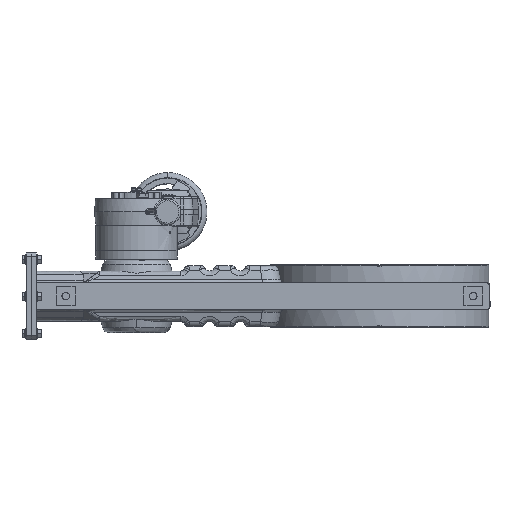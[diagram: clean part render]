
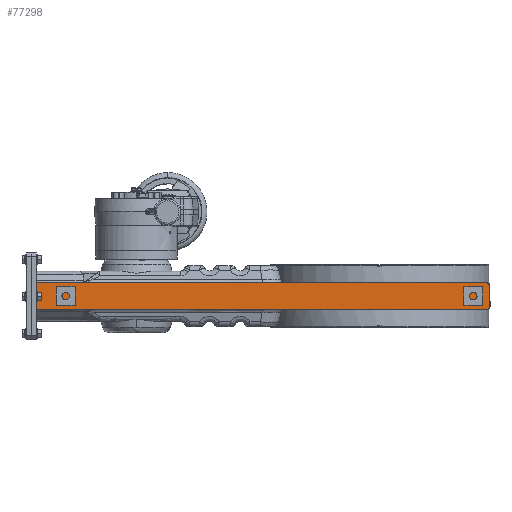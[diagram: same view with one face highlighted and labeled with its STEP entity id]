
A CAD part, left-side view. The second image highlights one B-rep face of the part: STEP entity #77298.
In plain terms, the highlighted free-form (B-spline) face has degree [1, 1] with [2, 2] control points.
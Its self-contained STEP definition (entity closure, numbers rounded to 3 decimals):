
#77161=CARTESIAN_POINT('V23',(0.,21.,
   718.));
#77162=VERTEX_POINT('V23',#77161);
#77169=CARTESIAN_POINT('V22',(0.,16.,723.0)
   );
#77170=VERTEX_POINT('V22',#77169);
#77176=CARTESIAN_POINT('E29',(0.,16.,723.0)
   );
#77177=CARTESIAN_POINT('E29',(0.,21.,
   723.));
#77178=CARTESIAN_POINT('E29',(0.,21.,
   718.));
#77186=(BOUNDED_CURVE()B_SPLINE_CURVE(2,(#77176,#77177,#77178),
   .CIRCULAR_ARC.,.F.,.U.)B_SPLINE_CURVE_WITH_KNOTS((3,3),(2.0,
   13.107),.UNSPECIFIED.)CURVE()
   GEOMETRIC_REPRESENTATION_ITEM()RATIONAL_B_SPLINE_CURVE((1.0,
   0.707,1.0))REPRESENTATION_ITEM('E29'));
#77187=EDGE_CURVE('E29',#77170,#77162,#77186,.T.);
#77199=CARTESIAN_POINT('V21',(0.,-16.0,
   723.));
#77200=VERTEX_POINT('V21',#77199);
#77206=CARTESIAN_POINT('E28',(0.,-16.0,
   723.));
#77207=CARTESIAN_POINT('E28',(0.,16.0,723.)
   );
#77208=B_SPLINE_CURVE_WITH_KNOTS('E28',1,(#77206,#77207),
   .POLYLINE_FORM.,.F.,.U.,(2,2),(2.0,47.255),
   .UNSPECIFIED.);
#77209=EDGE_CURVE('E28',#77200,#77170,#77208,.T.);
#77230=CARTESIAN_POINT('V20',(0.,-21.,
   718.));
#77231=VERTEX_POINT('V20',#77230);
#77237=CARTESIAN_POINT('E27',(0.,-21.,
   718.));
#77238=CARTESIAN_POINT('E27',(0.,-21.,
   723.));
#77239=CARTESIAN_POINT('E27',(0.,-16.0,
   723.));
#77247=(BOUNDED_CURVE()B_SPLINE_CURVE(2,(#77237,#77238,#77239),
   .CIRCULAR_ARC.,.F.,.U.)B_SPLINE_CURVE_WITH_KNOTS((3,3),(2.0,
   13.107),.UNSPECIFIED.)CURVE()
   GEOMETRIC_REPRESENTATION_ITEM()RATIONAL_B_SPLINE_CURVE((1.0,
   0.707,1.0))REPRESENTATION_ITEM('E27'));
#77248=EDGE_CURVE('E27',#77231,#77200,#77247,.T.);
#77260=CARTESIAN_POINT('V19',(0.,-21.,0.0)
   );
#77261=VERTEX_POINT('V19',#77260);
#77267=CARTESIAN_POINT('E26',(0.,-21.,0.0)
   );
#77268=CARTESIAN_POINT('E26',(0.,-21.,
   718.));
#77269=B_SPLINE_CURVE_WITH_KNOTS('E26',1,(#77267,#77268),
   .POLYLINE_FORM.,.F.,.U.,(2,2),(2.0,1017.405),
   .UNSPECIFIED.);
#77270=EDGE_CURVE('E26',#77261,#77231,#77269,.T.);
#77275=CARTESIAN_POINT('F9',(0.,21.5,0.0)
   );
#77276=CARTESIAN_POINT('F9',(0.,-21.5,0.0)
   );
#77277=CARTESIAN_POINT('F9',(0.,21.5,
   723.5));
#77278=CARTESIAN_POINT('F9',(0.,-21.5,
   723.5));
#77279=B_SPLINE_SURFACE_WITH_KNOTS('F9',1,1,((#77275,#77277),(
   #77276,#77278)),.PLANE_SURF.,.F.,.F.,.U.,(2,2),(2,2),(0.0,1.0),
   (0.0,16.826),.UNSPECIFIED.);
#77280=ORIENTED_EDGE('F20',*,*,#77270,.F.);
#77281=CARTESIAN_POINT('V24',(0.,21.,0.0)
   );
#77282=VERTEX_POINT('V24',#77281);
#77283=CARTESIAN_POINT('E31',(0.,-21.,0.0)
   );
#77284=CARTESIAN_POINT('E31',(0.,21.0,0.0));
#77285=B_SPLINE_CURVE_WITH_KNOTS('E31',1,(#77283,#77284),
   .POLYLINE_FORM.,.F.,.U.,(2,2),(0.012,
   0.988),.UNSPECIFIED.);
#77286=EDGE_CURVE('E31',#77261,#77282,#77285,.T.);
#77287=ORIENTED_EDGE('E31',*,*,#77286,.T.);
#77288=CARTESIAN_POINT('E30',(0.,21.,
   718.));
#77289=CARTESIAN_POINT('E30',(0.,21.,0.0)
   );
#77290=B_SPLINE_CURVE_WITH_KNOTS('E30',1,(#77288,#77289),
   .POLYLINE_FORM.,.F.,.U.,(2,2),(2.0,1017.405),
   .UNSPECIFIED.);
#77291=EDGE_CURVE('E30',#77162,#77282,#77290,.T.);
#77292=ORIENTED_EDGE('E30',*,*,#77291,.F.);
#77293=ORIENTED_EDGE('F17',*,*,#77187,.F.);
#77294=ORIENTED_EDGE('F18',*,*,#77209,.F.);
#77295=ORIENTED_EDGE('F19',*,*,#77248,.F.);
#77296=EDGE_LOOP('F9',(#77280,#77287,#77292,#77293,#77294,#77295));
#77297=FACE_OUTER_BOUND('F9',#77296,.F.);
#77298=ADVANCED_FACE('F9',(#77297),#77279,.T.);
